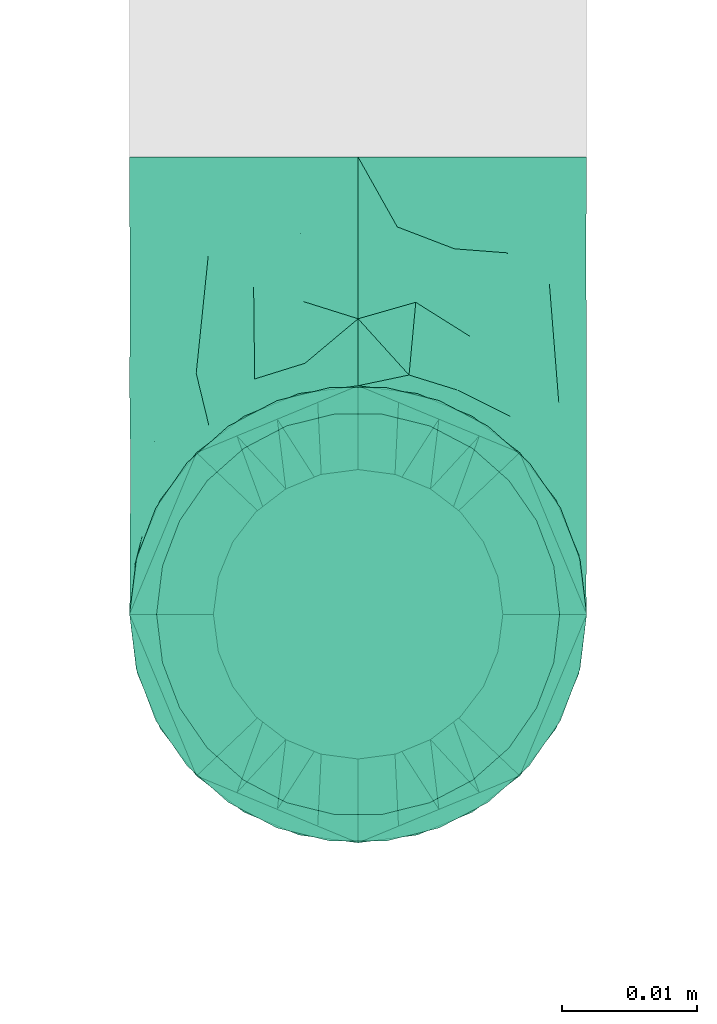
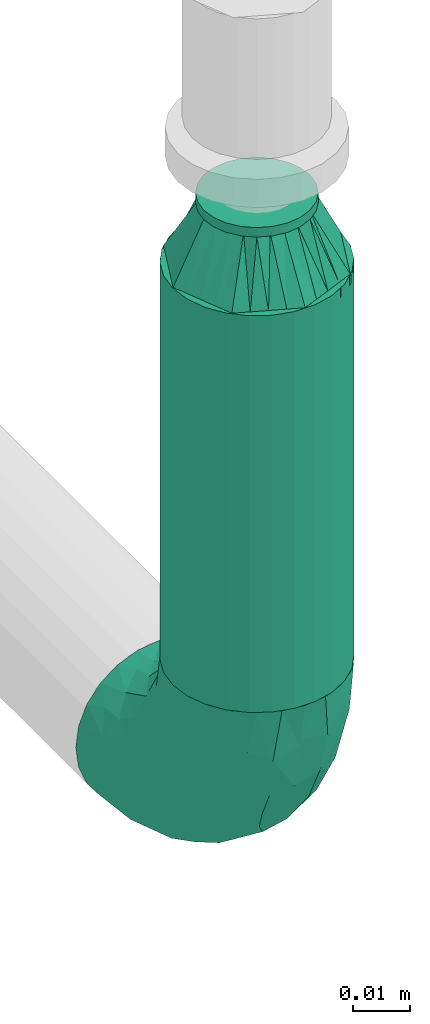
# One storey, part 35 of 94: 2 flow fittings, 1 flow segment.
"""IFC2X3 building model written with IfcOpenShell, lengths in millimetres."""

import ifcopenshell
import ifcopenshell.guid

model = None  # the IFC model being written
_history = None  # IfcOwnerHistory: only IFC2X3 demands one
_inside = {}  # id of a spatial element -> (the spatial element, [elements in it])
_under = {}  # id of a project, library or spatial element -> (it, [spatial elements below it])
_declared = {}  # id of a project -> (the project, [libraries it declares])
_typed = {}  # id of a type object -> (the type object, [elements of that type])
_made_of = {}  # id of a material, layer set ... -> (it, [elements and type objects made of it])


def new_model(schema):
    """Start an empty IFC model of exactly this schema.

    Asked for "IFC4X3", IfcOpenShell would pick the latest addendum, in which some entities
    have other attributes; the version numbers below select the first issue.
    IFC2X3 requires an IfcOwnerHistory on every rooted entity: one is made here for all.
    """
    global model, _history
    if schema == "IFC4X3":
        model = ifcopenshell.file(schema_version=(4, 3, 0, 0))
    else:
        model = ifcopenshell.file(schema=schema)
    _inside.clear()
    _under.clear()
    _declared.clear()
    _typed.clear()
    _made_of.clear()
    _history = None
    if model.schema == "IFC2X3":
        org = make("IfcOrganization", Name="unknown")
        user = make(
            "IfcPersonAndOrganization",
            ThePerson=make("IfcPerson", FamilyName="unknown"),
            TheOrganization=org,
        )
        app = make(
            "IfcApplication",
            ApplicationDeveloper=org,
            Version="unknown",
            ApplicationFullName="unknown",
            ApplicationIdentifier="unknown",
        )
        _history = make(
            "IfcOwnerHistory",
            OwningUser=user,
            OwningApplication=app,
            ChangeAction="ADDED",
            CreationDate=0,
        )
    return model


def make(cls, **values):
    """One entity of the class cls with the attributes given. An attribute that is None is left unset."""
    return model.create_entity(
        cls, **{name: value for name, value in values.items() if value is not None}
    )


def entity(cls, *values):
    """Any entity or typed value of the class cls, its attributes in the order of the schema. None: left unset."""
    e = model.create_entity(cls)
    for i, value in enumerate(values):
        if value is not None:
            e[i] = value
    return e


def rooted(cls, **values):
    """An entity with a GlobalId (a new one), such as an element, a storey or a relation."""
    return make(cls, GlobalId=ifcopenshell.guid.new(), OwnerHistory=_history, **values)


def si_unit(unit_type, name, prefix=None):
    """IfcSIUnit, for example si_unit("LENGTHUNIT", "METRE", prefix="MILLI")."""
    return make("IfcSIUnit", UnitType=unit_type, Prefix=prefix, Name=name)


def converted_unit(unit_type, name, factor, base, dimensions=None, offset=None):
    """IfcConversionBasedUnit, such as the inch: factor (a typed value) times the base unit."""
    return make(
        "IfcConversionBasedUnit"
        if offset is None
        else "IfcConversionBasedUnitWithOffset",
        ConversionOffset=offset,
        Dimensions=None
        if dimensions is None
        else entity("IfcDimensionalExponents", *dimensions),
        UnitType=unit_type,
        Name=name,
        ConversionFactor=make(
            "IfcMeasureWithUnit", ValueComponent=factor, UnitComponent=base
        ),
    )


def derived_unit(unit_type, elements):
    """IfcDerivedUnit: a product of units, each with its exponent."""
    return make(
        "IfcDerivedUnit",
        Elements=[
            make("IfcDerivedUnitElement", Unit=unit, Exponent=power)
            for unit, power in elements
        ],
        UnitType=unit_type,
    )


def assignment(units):
    """IfcUnitAssignment: the units of a project."""
    return None if units is None else make("IfcUnitAssignment", Units=units)


def point(xyz):
    """IfcCartesianPoint."""
    return None if xyz is None else make("IfcCartesianPoint", Coordinates=xyz)


def direction(xyz):
    """IfcDirection."""
    return None if xyz is None else make("IfcDirection", DirectionRatios=xyz)


def frame(location, z_axis=None, x_axis=None):
    """IfcAxis2Placement3D, a coordinate frame: its origin and axes. An axis left out is left unset."""
    return make(
        "IfcAxis2Placement3D",
        Location=point(location),
        Axis=direction(z_axis),
        RefDirection=direction(x_axis),
    )


def frame_2d(location, x_axis=None):
    """IfcAxis2Placement2D, a coordinate frame in the plane: its origin and x axis."""
    return make(
        "IfcAxis2Placement2D", Location=point(location), RefDirection=direction(x_axis)
    )


def origin_with_axes():
    """The frame at (0, 0, 0) with the z axis (0, 0, 1) and the x axis (1, 0, 0) written out."""
    return frame((0.0, 0.0, 0.0), z_axis=(0.0, 0.0, 1.0), x_axis=(1.0, 0.0, 0.0))


def origin_2d_with_axis():
    """The frame at (0, 0) in the plane with the x axis (1, 0) written out."""
    return frame_2d((0.0, 0.0), x_axis=(1.0, 0.0))


def place(relative_to, where):
    """IfcLocalPlacement: puts the frame where relative to a parent placement (None: the world)."""
    return make(
        "IfcLocalPlacement", PlacementRelTo=relative_to, RelativePlacement=where
    )


def context(
    kind, dimensions, precision=None, world=None, true_north=None, identifier=None
):
    """IfcGeometricRepresentationContext, for example the 3D "Model" context."""
    return make(
        "IfcGeometricRepresentationContext",
        ContextIdentifier=identifier,
        ContextType=kind,
        CoordinateSpaceDimension=dimensions,
        Precision=precision,
        WorldCoordinateSystem=world,
        TrueNorth=true_north,
    )


def subcontext(parent, identifier, kind, view, scale=None):
    """IfcGeometricRepresentationSubContext, for example "Body" below "Model"."""
    return make(
        "IfcGeometricRepresentationSubContext",
        ContextIdentifier=identifier,
        ContextType=kind,
        ParentContext=parent,
        TargetScale=scale,
        TargetView=view,
    )


def project(units=None, contexts=None):
    """IfcProject with its units and contexts."""
    return rooted(
        "IfcProject",
        Name="project",
        RepresentationContexts=contexts,
        UnitsInContext=assignment(units),
    )


def spatial(cls, under=None, at=None, **own):
    """A site, building, storey or space (cls), placed at a placement, below another one or the project."""
    s = rooted(cls, ObjectPlacement=at, **own)
    if under is not None:
        _under.setdefault(under.id(), (under, []))[1].append(s)
    return s


def profile(cls, at=None, kind="AREA", **sizes):
    """A parametric profile (cls). Its sizes go by their IFC names, for example OverallWidth=200.0."""
    return make(cls, ProfileType=kind, Position=at, **sizes)


def hollow_circle(**sizes):
    """IfcCircleHollowProfileDef."""
    return profile("IfcCircleHollowProfileDef", **sizes)


def extrude(swept, where, along, depth):
    """IfcExtrudedAreaSolid: the profile swept, set in the frame where, extruded along a direction by depth."""
    return make(
        "IfcExtrudedAreaSolid",
        SweptArea=swept,
        Position=where,
        ExtrudedDirection=direction(along),
        Depth=depth,
    )


def faces_of(points, faces, orient=None, outer=None):
    """IfcFace entities. A face is a list of loops; a loop is a list of indices into points, from 0.

    orient and outer hold one flag for each loop. By default every Orientation is true, the
    first loop of a face is its IfcFaceOuterBound and the others are IfcFaceBound.
    """
    made = []
    for i, loops in enumerate(faces):
        bounds = []
        for j, loop in enumerate(loops):
            is_outer = j == 0 if outer is None else outer[i][j]
            bounds.append(
                make(
                    "IfcFaceOuterBound" if is_outer else "IfcFaceBound",
                    Bound=make("IfcPolyLoop", Polygon=[points[k] for k in loop]),
                    Orientation=True if orient is None else orient[i][j],
                )
            )
        made.append(make("IfcFace", Bounds=bounds))
    return made


def open_shell(faces, orient=None, outer=None):
    """The faces of one IfcOpenShell. surface_model builds it on its shared points."""
    return ("IfcOpenShell", faces, orient, outer)


def surface_model(cls, points, shells):
    """IfcFaceBasedSurfaceModel or IfcShellBasedSurfaceModel (cls): surfaces that need not close."""
    shared = [point(p) for p in points]
    made = [make(c, CfsFaces=faces_of(shared, fs, o, b)) for c, fs, o, b in shells]
    if cls == "IfcFaceBasedSurfaceModel":
        return make(cls, FbsmFaces=made)
    return make(cls, SbsmBoundary=made)


def shape(context_of_items, identifier, shape_type, items):
    """IfcShapeRepresentation: the items that make up one representation, for example the "Body"."""
    return make(
        "IfcShapeRepresentation",
        ContextOfItems=context_of_items,
        RepresentationIdentifier=identifier,
        RepresentationType=shape_type,
        Items=items,
    )


def source(mapping_origin, context_of_items, identifier, shape_type, items):
    """IfcRepresentationMap: a shape defined once, which mapped items show again and again."""
    return make(
        "IfcRepresentationMap",
        MappingOrigin=mapping_origin,
        MappedRepresentation=shape(context_of_items, identifier, shape_type, items),
    )


def transform(
    local_origin,
    x_axis=None,
    y_axis=None,
    z_axis=None,
    scale=None,
    scale2=None,
    scale3=None,
    uniform=True,
):
    """IfcCartesianTransformationOperator3D, or its non-uniform kind. x_axis, y_axis, z_axis: its Axis1, 2, 3."""
    if uniform:
        return make(
            "IfcCartesianTransformationOperator3D",
            Axis1=direction(x_axis),
            Axis2=direction(y_axis),
            LocalOrigin=point(local_origin),
            Scale=scale,
            Axis3=direction(z_axis),
        )
    return make(
        "IfcCartesianTransformationOperator3DnonUniform",
        Axis1=direction(x_axis),
        Axis2=direction(y_axis),
        LocalOrigin=point(local_origin),
        Scale=scale,
        Axis3=direction(z_axis),
        Scale2=scale2,
        Scale3=scale3,
    )


def mapped(mapping_source, mapping_target):
    """IfcMappedItem: shows the shape of a source again, moved by a transform."""
    return make(
        "IfcMappedItem", MappingSource=mapping_source, MappingTarget=mapping_target
    )


def made_of(thing, what):
    """Note that an element or type object is made of a material, layer set ...; save() writes the relation."""
    if what is not None:
        _made_of.setdefault(what.id(), (what, []))[1].append(thing)
    return thing


def type_object(cls, material=None, **own):
    """A type object (cls), such as IfcWallType, which elements share."""
    return made_of(rooted(cls, **own), material)


def element(
    cls,
    number,
    at=None,
    inside=None,
    cuts=None,
    type_object=None,
    material=None,
    context=None,
    identifier="Body",
    shape_type=None,
    held_by="IfcProductDefinitionShape",
    body=None,
    shapes=None,
    **own,
):
    """One element of the class cls, such as IfcWall. Its Tag is "e" and its number.

    at: its placement. inside: the storey or other place that contains it. cuts: it is an
    opening in that element (IfcRelVoidsElement). A single representation is given by context,
    identifier, shape_type and body (its items); several are given by shapes. held_by: the class
    of the entity that holds the representations. save() writes the other relations.
    """
    e = rooted(cls, Tag="e%d" % number, ObjectPlacement=at, **own)
    if body is not None:
        shapes = [shape(context, identifier, shape_type, body)]
    if shapes is not None:
        e.Representation = make(held_by, Representations=shapes)
    if inside is not None:
        _inside.setdefault(inside.id(), (inside, []))[1].append(e)
    if cuts is not None:
        rooted(
            "IfcRelVoidsElement", RelatingBuildingElement=cuts, RelatedOpeningElement=e
        )
    if type_object is not None:
        _typed.setdefault(type_object.id(), (type_object, []))[1].append(e)
    return made_of(e, material)


def aggregate(whole, parts):
    """IfcRelAggregates: a whole, such as a stair, and the parts it consists of."""
    return rooted("IfcRelAggregates", RelatingObject=whole, RelatedObjects=parts)


def save(model, path):
    """Write the relations noted so far, then the file.

    IfcRelAggregates (storeys below a building ...), IfcRelContainedInSpatialStructure (elements
    in a storey), IfcRelDefinesByType, IfcRelAssociatesMaterial and IfcRelDeclares: one each for
    every whole, place, type object, material and project.
    """
    for whole, parts in _under.values():
        aggregate(whole, parts)
    for where, things in _inside.values():
        rooted(
            "IfcRelContainedInSpatialStructure",
            RelatedElements=things,
            RelatingStructure=where,
        )
    for kind, things in _typed.values():
        rooted("IfcRelDefinesByType", RelatedObjects=things, RelatingType=kind)
    for what, things in _made_of.values():
        rooted("IfcRelAssociatesMaterial", RelatedObjects=things, RelatingMaterial=what)
    for by, libraries in _declared.values():
        rooted("IfcRelDeclares", RelatingContext=by, RelatedDefinitions=libraries)
    model.write(path)


model = new_model("IFC2X3")

# Units and contexts
model_context = context("Model", 3, precision=0.01, world=frame((0.0, 4.29681676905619e-09, 0.0)), true_north=direction((4.01073788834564e-13, 1.0)))
plan_context = context("Plan", 3, precision=0.01, world=frame((0.0, 4.29681676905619e-09, 0.0)), true_north=direction((4.01073788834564e-13, 1.0)))
body_context = subcontext(model_context, "Body", "Model", "MODEL_VIEW")
ifc_project = project(units=[converted_unit("PLANEANGLEUNIT", "DEGREE", entity("IfcPositiveLengthMeasure", 0.0174532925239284), si_unit("PLANEANGLEUNIT", "RADIAN"), dimensions=[0, 0, 0, 0, 0, 0, 0]), si_unit("AREAUNIT", "SQUARE_METRE"), si_unit("LENGTHUNIT", "METRE", prefix="MILLI"), si_unit("MASSUNIT", "GRAM", prefix="KILO"), si_unit("POWERUNIT", "WATT"), si_unit("PRESSUREUNIT", "PASCAL"), si_unit("FORCEUNIT", "NEWTON", prefix="KILO"), si_unit("ELECTRICCURRENTUNIT", "AMPERE"), si_unit("THERMODYNAMICTEMPERATUREUNIT", "DEGREE_CELSIUS"), si_unit("TIMEUNIT", "SECOND"), si_unit("VOLUMEUNIT", "CUBIC_METRE"), derived_unit("LINEARVELOCITYUNIT", [(si_unit("LENGTHUNIT", "METRE"), 1), (si_unit("TIMEUNIT", "SECOND"), -1)]), derived_unit("VOLUMETRICFLOWRATEUNIT", [(si_unit("VOLUMEUNIT", "CUBIC_METRE"), 1), (si_unit("TIMEUNIT", "SECOND"), -1)]), derived_unit("THERMALTRANSMITTANCEUNIT", [(si_unit("POWERUNIT", "WATT"), 1), (si_unit("THERMODYNAMICTEMPERATUREUNIT", "KELVIN"), -1), (si_unit("AREAUNIT", "SQUARE_METRE"), -1)])], contexts=[model_context, plan_context])

# Site, building, storey
site_placement = place(None, frame((0.0, -4.29681676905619e-09, 0.0), z_axis=(0.0, 0.0, 1.0), x_axis=(1.0, 0.0, 0.0)))
site = spatial("IfcSite", under=ifc_project, at=site_placement, CompositionType="ELEMENT")
building_placement = place(site_placement, frame((0.0, 4.29681676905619e-09, 0.0), z_axis=(0.0, 0.0, 1.0), x_axis=(1.0, 0.0, 0.0)))
building = spatial("IfcBuilding", under=site, at=building_placement, Name="mc-building", CompositionType="ELEMENT")
storey_placement = place(building_placement, frame((0.0, 0.0, 200300.0), z_axis=(0.0, 0.0, 1.0), x_axis=(1.0, 0.0, 0.0)))
storey = spatial("IfcBuildingStorey", under=building, at=storey_placement, Name="Nivå C", CompositionType="ELEMENT", Elevation=200300.0)

# Flow fittings
pipe_fitting_type_1 = type_object("IfcPipeFittingType", Name="magi_pipe_fe_reducer_centric_short_NOR", PredefinedType="TRANSITION")
shared_shape_1 = source(origin_with_axes(), body_context, "Body", "SurfaceModel", [
    surface_model("IfcShellBasedSurfaceModel", [(14.4, 5.35, -9.26647), (14.4, 0.0, -10.7), (14.4, 2.76936, -10.33541), (14.4, 10.33541, -2.76936), (14.4, 7.56604, -7.56604), (14.4, -10.33541, -2.76936), (14.4, 9.26647, -5.35), (14.4, 0.0, 10.7), (14.4, -5.35, -9.26647), (14.4, -2.76936, -10.33541), (14.4, -7.56604, -7.56604), (14.4, -9.26647, -5.35), (14.4, 10.7, 0.0), (14.4, 10.33541, 2.76936), (14.4, 9.26647, 5.35), (14.4, 7.56604, 7.56604), (14.4, 2.76936, 10.33541), (14.4, 5.35, 9.26647), (14.4, -10.33541, 2.76936), (14.4, -7.56604, 7.56604), (14.4, -9.26647, 5.35), (14.4, -10.7, 0.0), (14.4, -2.76936, 10.33541), (14.4, -5.35, 9.26647), (12.4, 2.76936, 10.33541), (12.4, -10.33541, -2.76936), (12.4, 0.0, 10.7), (12.4, 5.35, 9.26647), (12.4, 7.56604, 7.56604), (12.4, 9.26647, 5.35), (12.4, 10.33541, 2.76936), (12.4, -10.33541, 2.76936), (12.4, -2.76936, 10.33541), (12.4, -7.56604, 7.56604), (12.4, -5.35, 9.26647), (12.4, -9.26647, 5.35), (12.4, -10.7, 0.0), (12.4, 10.33541, -2.76936), (12.4, 5.35, -9.26647), (12.4, 9.26647, -5.35), (12.4, 7.56604, -7.56604), (12.4, 2.76936, -10.33541), (12.4, -9.26647, -5.35), (12.4, -5.35, -9.26647), (12.4, -7.56604, -7.56604), (12.4, 0.0, -10.7), (12.4, -2.76936, -10.33541), (12.4, 10.7, 0.0), (-2.0, 11.9501, 11.9501), (-2.0, 0.0, 16.9), (-2.0, 4.37404, 16.32415), (-2.0, 8.45, 14.63583), (-2.0, 14.63583, 8.45), (-2.0, 16.32415, 4.37404), (-2.0, -16.32415, 4.37404), (-2.0, -8.45, 14.63583), (-2.0, -14.63583, 8.45), (-2.0, -11.9501, 11.9501), (-2.0, -4.37404, 16.32415), (-2.0, -16.32415, -4.37404), (-2.0, -16.9, 0.0), (-2.0, -8.45, -14.63583), (-2.0, 16.32415, -4.37404), (-2.0, 11.9501, -11.9501), (-2.0, 14.63583, -8.45), (-2.0, 8.45, -14.63583), (-2.0, 4.37404, -16.32415), (-2.0, 0.0, -16.9), (-2.0, -11.9501, -11.9501), (-2.0, -14.63583, -8.45), (-2.0, -4.37404, -16.32415), (-2.0, 16.9, 0.0), (0.0, 4.37404, -16.32415), (0.0, 8.45, -14.63583), (0.0, 11.9501, -11.9501), (0.0, 0.0, -16.9), (0.0, 16.32415, -4.37404), (0.0, 16.32415, 4.37404), (0.0, 14.63583, -8.45), (0.0, -8.45, -14.63583), (0.0, -4.37404, -16.32415), (0.0, -11.9501, -11.9501), (0.0, -16.32415, -4.37404), (0.0, -14.63583, -8.45), (0.0, -16.32415, 4.37404), (0.0, 16.9, 0.0), (0.0, 14.63583, 8.45), (0.0, 11.9501, 11.9501), (0.0, 4.37404, 16.32415), (0.0, 8.45, 14.63583), (0.0, 0.0, 16.9), (0.0, -14.63583, 8.45), (0.0, -16.9, 0.0), (0.0, -8.45, 14.63583), (0.0, -11.9501, 11.9501), (0.0, -4.37404, 16.32415), (12.4, 9.3625, -2.31662), (0.0, 14.42505, -5.97505), (0.0, 15.66253, -2.98753), (12.4, -6.6875, -6.94985), (0.0, -13.18758, -8.96258), (0.0, 2.98753, -15.66253), (12.4, 0.0, -9.26647), (12.4, 6.6875, -6.94985), (0.0, 8.96258, -13.18758), (12.4, -9.3625, -2.31662), (0.0, -15.66253, -2.98753), (0.0, -14.42505, -5.97505), (0.0, 5.97505, -14.42505), (0.0, -2.98753, -15.66253), (0.0, -8.96258, -13.18758), (0.0, 13.18758, -8.96258), (12.4, 8.025, -4.63324), (12.4, -2.675, -9.26647), (12.4, 2.675, -9.26647), (0.0, -5.97505, -14.42505), (12.4, -8.025, -4.63324), (12.4, -9.3625, 2.31662), (0.0, -14.42505, 5.97505), (0.0, -15.66253, 2.98753), (12.4, 6.6875, 6.94985), (0.0, 13.18758, 8.96258), (0.0, -2.98753, 15.66253), (12.4, 0.0, 9.26647), (12.4, -6.6875, 6.94985), (0.0, -8.96258, 13.18758), (12.4, 9.3625, 2.31662), (0.0, 15.66253, 2.98753), (0.0, 14.42505, 5.97505), (0.0, -5.97505, 14.42505), (0.0, 2.98753, 15.66253), (0.0, 8.96258, 13.18758), (0.0, -13.18758, 8.96258), (12.4, -8.025, 4.63324), (12.4, 2.675, 9.26647), (12.4, -2.675, 9.26647), (0.0, 5.97505, 14.42505), (12.4, 8.025, 4.63324)], [open_shell([[[0, 1, 2]], [[3, 0, 4]], [[5, 0, 3]], [[3, 4, 6]], [[7, 5, 3]], [[1, 8, 9]], [[1, 0, 8]], [[10, 5, 11]], [[5, 10, 8]], [[0, 5, 8]], [[3, 12, 13]], [[13, 14, 15]], [[13, 15, 16]], [[7, 3, 16]], [[16, 15, 17]], [[7, 18, 5]], [[18, 19, 20]], [[21, 5, 18]], [[19, 22, 23]], [[22, 19, 18]], [[7, 22, 18]], [[13, 16, 3]], [[24, 25, 26]], [[27, 25, 24]], [[28, 29, 30]], [[28, 25, 27]], [[31, 26, 25]], [[32, 33, 34]], [[33, 32, 31]], [[33, 31, 35]], [[32, 26, 31]], [[31, 25, 36]], [[30, 37, 28]], [[25, 28, 37]], [[38, 37, 39]], [[37, 38, 25]], [[38, 39, 40]], [[41, 25, 38]], [[42, 43, 44]], [[43, 42, 25]], [[43, 45, 46]], [[43, 25, 41]], [[41, 45, 43]], [[37, 30, 47]], [[25, 5, 36]], [[42, 11, 25]], [[8, 44, 43]], [[42, 44, 10]], [[9, 43, 46]], [[25, 11, 5]], [[5, 21, 36]], [[9, 8, 43]], [[10, 44, 8]], [[10, 11, 42]], [[1, 9, 46]], [[46, 45, 1]], [[41, 2, 45]], [[38, 0, 41]], [[6, 40, 39]], [[38, 40, 4]], [[3, 39, 37]], [[38, 4, 0]], [[0, 2, 41]], [[12, 3, 37]], [[6, 39, 3]], [[6, 4, 40]], [[47, 12, 37]], [[45, 2, 1]], [[30, 13, 47]], [[29, 14, 30]], [[17, 28, 27]], [[29, 28, 15]], [[16, 27, 24]], [[30, 14, 13]], [[13, 12, 47]], [[16, 17, 27]], [[15, 28, 17]], [[15, 14, 29]], [[7, 16, 24]], [[24, 26, 7]], [[32, 22, 26]], [[34, 23, 32]], [[20, 33, 35]], [[34, 33, 19]], [[18, 35, 31]], [[34, 19, 23]], [[23, 22, 32]], [[21, 18, 31]], [[20, 35, 18]], [[20, 19, 33]], [[36, 21, 31]], [[26, 22, 7]], [[48, 49, 50]], [[48, 50, 51]], [[48, 52, 53]], [[48, 53, 49]], [[49, 53, 54]], [[55, 56, 57]], [[55, 58, 49]], [[56, 55, 49]], [[49, 54, 56]], [[54, 59, 60]], [[54, 53, 61]], [[53, 62, 63]], [[63, 62, 64]], [[63, 65, 66]], [[61, 53, 63]], [[67, 63, 66]], [[59, 68, 69]], [[68, 59, 61]], [[61, 67, 70]], [[59, 54, 61]], [[63, 67, 61]], [[53, 71, 62]], [[72, 73, 74]], [[75, 72, 74]], [[74, 76, 77]], [[76, 74, 78]], [[74, 77, 79]], [[75, 79, 80]], [[75, 74, 79]], [[81, 82, 83]], [[82, 81, 79]], [[79, 84, 82]], [[77, 76, 85]], [[77, 86, 87]], [[77, 87, 88]], [[88, 84, 79]], [[88, 87, 89]], [[84, 88, 90]], [[90, 91, 84]], [[92, 82, 84]], [[91, 93, 94]], [[91, 90, 93]], [[93, 90, 95]], [[79, 77, 88]], [[59, 82, 60]], [[69, 83, 59]], [[79, 68, 61]], [[69, 68, 81]], [[80, 61, 70]], [[59, 83, 82]], [[82, 92, 60]], [[80, 79, 61]], [[81, 68, 79]], [[81, 83, 69]], [[75, 80, 70]], [[70, 67, 75]], [[66, 72, 67]], [[65, 73, 66]], [[78, 63, 64]], [[65, 63, 74]], [[76, 64, 62]], [[65, 74, 73]], [[73, 72, 66]], [[85, 76, 62]], [[78, 64, 76]], [[78, 74, 63]], [[71, 85, 62]], [[67, 72, 75]], [[53, 77, 71]], [[52, 86, 53]], [[89, 48, 51]], [[52, 48, 87]], [[88, 51, 50]], [[53, 86, 77]], [[77, 85, 71]], [[88, 89, 51]], [[87, 48, 89]], [[87, 86, 52]], [[90, 88, 50]], [[50, 49, 90]], [[58, 95, 49]], [[55, 93, 58]], [[91, 57, 56]], [[55, 57, 94]], [[84, 56, 54]], [[55, 94, 93]], [[93, 95, 58]], [[92, 84, 54]], [[91, 56, 84]], [[91, 94, 57]], [[60, 92, 54]], [[49, 95, 90]], [[27, 34, 47]], [[47, 34, 43]], [[43, 38, 47]], [[43, 34, 36]], [[90, 87, 94]], [[92, 94, 87]], [[87, 74, 92]], [[75, 92, 74]], [[81, 92, 75]], [[74, 87, 85]], [[96, 97, 98]], [[81, 99, 100]], [[101, 102, 75]], [[98, 85, 47]], [[74, 103, 104]], [[104, 103, 38]], [[105, 106, 107]], [[38, 108, 104]], [[102, 109, 75]], [[110, 99, 81]], [[47, 96, 98]], [[103, 111, 112]], [[109, 102, 113]], [[36, 92, 106]], [[102, 101, 114]], [[110, 115, 43]], [[96, 112, 97]], [[107, 116, 105]], [[36, 106, 105]], [[113, 115, 109]], [[43, 115, 113]], [[116, 107, 100]], [[108, 38, 114]], [[111, 103, 74]], [[111, 97, 112]], [[99, 110, 43]], [[116, 100, 99]], [[101, 108, 114]], [[117, 118, 119]], [[87, 120, 121]], [[122, 123, 90]], [[119, 92, 36]], [[94, 124, 125]], [[125, 124, 34]], [[126, 127, 128]], [[34, 129, 125]], [[123, 130, 90]], [[131, 120, 87]], [[36, 117, 119]], [[124, 132, 133]], [[130, 123, 134]], [[47, 85, 127]], [[123, 122, 135]], [[131, 136, 27]], [[117, 133, 118]], [[128, 137, 126]], [[47, 127, 126]], [[134, 136, 130]], [[27, 136, 134]], [[137, 128, 121]], [[129, 34, 135]], [[132, 124, 94]], [[132, 118, 133]], [[120, 131, 27]], [[137, 121, 120]], [[122, 129, 135]]])]),
])
flow_fitting_1_placement = place(storey_placement, frame((514835.88771, 409625.75497, 2968.10921), z_axis=(0.0, -1.0, 0.0), x_axis=(0.0, 0.0, 1.0)))
element("IfcFlowFitting", 1, at=flow_fitting_1_placement, inside=storey, type_object=pipe_fitting_type_1, Name="magi_pipe_fe_reducer_centric_short_NOR", context=body_context, shape_type="MappedRepresentation", body=[
    mapped(shared_shape_1, transform((0.0, 0.0, 0.0), scale=1.0)),
])
pipe_fitting_type_2 = type_object("IfcPipeFittingType", Name="magi_pipe_fe_elbow_short_001", PredefinedType="BEND")
shared_shape_2 = source(origin_with_axes(), body_context, "Body", "SurfaceModel", [
    surface_model("IfcShellBasedSurfaceModel", [(-33.8, 8.45, -14.63583), (-33.8, 4.37404, -16.32415), (-33.8, 11.9501, -11.9501), (-33.8, -11.9501, -11.9501), (-33.8, -14.63583, -8.45), (-33.8, -8.45, -14.63583), (-33.8, 0.0, -16.9), (-33.8, -4.37404, -16.32415), (-33.8, -4.37404, 16.32415), (-33.8, 0.0, 16.9), (-33.8, -8.45, 14.63583), (-33.8, 16.32415, -4.37404), (-33.8, 14.63583, -8.45), (-33.8, -16.32415, -4.37404), (-33.8, -16.9, 0.0), (-33.8, -16.32415, 4.37404), (-33.8, 11.9501, 11.9501), (-33.8, 14.63583, 8.45), (-33.8, 16.32415, 4.37404), (-33.8, 4.37404, 16.32415), (-33.8, 8.45, 14.63583), (-33.8, -14.63583, 8.45), (-33.8, -11.9501, 11.9501), (-33.8, 16.9, 0.0), (-11.9501, 33.8, -11.9501), (0.0, 33.8, -16.9), (-4.37404, 33.8, -16.32415), (-8.45, 33.8, -14.63583), (-14.63583, 33.8, -8.45), (-16.32415, 33.8, -4.37404), (14.63583, 33.8, -8.45), (8.45, 33.8, 14.63583), (16.32415, 33.8, -4.37404), (8.45, 33.8, -14.63583), (11.9501, 33.8, -11.9501), (4.37404, 33.8, -16.32415), (16.32415, 33.8, 4.37404), (16.9, 33.8, 0.0), (-11.9501, 33.8, 11.9501), (-16.32415, 33.8, 4.37404), (-14.63583, 33.8, 8.45), (-8.45, 33.8, 14.63583), (-4.37404, 33.8, 16.32415), (11.9501, 33.8, 11.9501), (14.63583, 33.8, 8.45), (0.0, 33.8, 16.9), (4.37404, 33.8, 16.32415), (-16.9, 33.8, 0.0), (-24.79389, -13.12945, 9.48721), (-22.19287, -9.75018, 12.59315), (-24.09897, -14.97035, 0.0), (-14.93934, -10.76256, 8.5297), (-22.46095, -14.75051, 5.27077), (14.75051, 22.46094, 5.27077), (11.9251, 13.23888, 4.33236), (13.04069, 14.39795, 0.0), (7.71387, 13.68847, 11.55891), (9.75018, 22.19287, 12.59315), (4.10169, 13.0571, 14.04018), (-24.84007, -6.39063, 15.2048), (-25.81779, -2.23879, 16.61097), (-23.66549, 2.59054, 16.87119), (-26.50418, 14.06512, 11.08152), (-24.21253, 17.66365, 7.72657), (-29.58514, 15.86957, 7.00283), (-6.17382, -7.5455, 0.0), (-13.23888, -11.9251, 4.33236), (-14.39795, -13.04069, 0.0), (-17.81434, 18.87373, 11.97104), (-6.30846, 29.15138, 15.82987), (-2.31622, 25.28002, 16.85849), (-29.23923, 10.23435, 13.77053), (-1.45439, -2.85688, 7.61475), (-0.28326, 0.34872, 10.09509), (-5.74484, -4.04709, 10.4122), (-4.41137, 11.31918, 16.59407), (-8.39727, 3.10034, 15.7812), (-1.72649, 9.1306, 15.53089), (-17.39909, 24.75344, 7.64977), (-26.19233, 20.0512, 0.0), (-28.14518, 17.29657, 4.25857), (-26.05147, 6.6281, 15.96447), (-5.87354, 16.61944, 16.86968), (-12.51807, 12.51807, 16.48937), (-10.06312, 7.38516, 16.81295), (-3.01882, 3.01882, 13.81718), (-13.0571, -4.10169, 14.04018), (-16.82553, -0.15166, 16.38038), (10.76256, 14.93934, 8.5297), (13.12945, 24.79389, 9.48721), (6.39063, 24.84007, 15.2048), (2.23879, 25.81779, 16.61097), (-13.68847, -7.71387, 11.55891), (14.97035, 24.09897, 0.0), (-7.30894, 22.89991, 16.09489), (-10.67958, 26.17414, 14.008), (-12.78295, 18.26924, 15.06066), (-13.88562, 22.45231, 12.93244), (-18.04944, 15.16501, 14.04434), (-23.11658, 20.08178, 4.02986), (-21.84989, 21.84989, 0.0), (-18.55817, 25.48277, 3.93065), (-13.95142, 26.94732, 11.03289), (-18.57098, 7.23906, 16.59756), (-16.58335, 4.14122, 16.89279), (-17.96666, 11.46709, 15.63151), (-9.84453, 17.54304, 16.18938), (0.15166, 16.82553, 16.38038), (-23.27207, 11.47201, 14.23154), (3.84842, 5.86994, 10.70473), (-8.0212, -7.54413, 7.93275), (1.00345, -2.19508, 4.57414), (5.13203, 3.01004, 5.90201), (5.24161, 1.7543, 2.53265), (8.70457, 7.04947, 3.99182), (-20.0512, 26.19233, 0.0), (8.4852, 8.76699, 7.09296), (-4.55488, -6.72064, 4.90681), (2.05031, -2.05031, 0.0), (7.5455, 6.17382, 0.0), (-26.75399, 2.1369, -16.845), (-14.61995, 24.73803, -11.27736), (-28.45274, -13.45335, -9.81895), (-26.00469, 6.63555, -15.96645), (-23.06726, 20.04573, -4.26202), (-13.80647, -4.26506, -14.17873), (-14.67501, -0.21081, -16.07388), (-6.7902, -0.2828, -13.8478), (-24.53586, 11.08096, -14.13417), (-26.72048, 14.00837, -11.05776), (10.0967, 24.44989, -12.75976), (5.83237, 21.40218, -15.03047), (6.66249, 28.54238, -15.38093), (-20.38182, 15.48705, -12.74596), (12.53268, 21.23441, -9.15363), (12.54494, 15.67504, -5.54878), (9.7522, 12.89279, -8.66343), (-15.65186, 19.64213, -13.01327), (-12.03528, 20.66498, -14.67665), (-15.61907, 15.61906, -14.83879), (-25.56551, -15.26206, 0.0), (-24.65452, -15.12934, -5.50955), (13.45335, 28.45274, -9.81895), (15.12934, 24.65452, -5.50955), (-7.35442, -8.31014, -5.65563), (-15.67504, -12.54494, -5.54878), (-24.44989, -10.0967, -12.75976), (0.16522, 0.41303, -9.71728), (-5.70658, -5.33066, -8.89288), (-5.13869, -2.37198, -11.53565), (-21.23441, -12.53268, -9.15363), (0.71146, 7.93863, -14.09382), (0.21081, 14.67501, -16.07388), (3.49291, 14.42772, -14.76381), (-24.89911, -2.13088, -16.591), (-28.54238, -6.66249, -15.38093), (-18.44386, -7.71663, -13.26957), (2.13088, 24.89911, -16.591), (-28.64342, 17.44413, -2.89318), (1.70017, -1.28722, -5.09504), (-16.57067, 26.81947, -7.36596), (-17.69055, 27.4263, -3.76405), (-12.89279, -9.7522, -8.66343), (-5.96611, 5.96611, -15.95814), (-20.53709, 20.09345, -8.28985), (-2.1369, 26.75399, -16.845), (-6.89872, 24.58781, -16.02578), (-10.60739, 26.53157, -13.98044), (-21.40218, -5.83237, -15.03047), (2.93192, 5.89627, -11.55917), (6.89393, 12.61842, -11.82233), (5.58056, 5.95325, -8.79455), (-3.99512, 18.61798, -16.89635), (8.31014, 7.35442, -5.65563), (-9.1383, 9.86148, -16.89041), (-9.99983, 16.02119, -16.39699), (-16.68576, 9.78031, -16.34199), (-27.01915, 16.61158, -7.12979), (15.26206, 25.56551, 0.0), (-18.61798, 3.99512, -16.89635), (-19.37495, 27.82495, 0.0), (-12.61842, -6.89393, -11.82233), (-18.84705, 19.14018, -10.96545)], [open_shell([[[0, 1, 2]], [[3, 4, 5]], [[6, 7, 5]], [[8, 9, 10]], [[1, 6, 2]], [[11, 12, 2]], [[4, 2, 6]], [[2, 13, 10]], [[5, 4, 6]], [[2, 4, 13]], [[14, 15, 13]], [[11, 2, 16]], [[11, 17, 18]], [[11, 16, 17]], [[19, 20, 16]], [[16, 2, 10]], [[19, 16, 10]], [[21, 22, 15]], [[22, 13, 15]], [[22, 10, 13]], [[10, 9, 19]], [[11, 18, 23]], [[24, 25, 26]], [[24, 26, 27]], [[24, 28, 29]], [[25, 24, 30]], [[31, 32, 24]], [[33, 30, 34]], [[33, 35, 25]], [[25, 30, 33]], [[32, 30, 24]], [[32, 36, 37]], [[38, 24, 29]], [[39, 40, 29]], [[40, 38, 29]], [[38, 41, 42]], [[38, 31, 24]], [[31, 38, 42]], [[36, 43, 44]], [[36, 32, 43]], [[31, 45, 46]], [[32, 31, 43]], [[42, 45, 31]], [[39, 29, 47]], [[22, 48, 49]], [[15, 14, 50]], [[51, 48, 52]], [[53, 54, 55]], [[48, 22, 21]], [[15, 52, 21]], [[56, 57, 58]], [[49, 10, 22]], [[49, 59, 10]], [[9, 60, 61]], [[62, 63, 64]], [[65, 66, 67]], [[57, 43, 31]], [[62, 68, 63]], [[42, 69, 70]], [[20, 71, 16]], [[8, 60, 9]], [[72, 73, 74]], [[75, 76, 77]], [[16, 62, 17]], [[40, 39, 78]], [[79, 23, 80]], [[64, 18, 17]], [[9, 61, 19]], [[19, 81, 20]], [[82, 83, 84]], [[74, 85, 86]], [[59, 86, 87]], [[88, 89, 57]], [[90, 31, 46]], [[44, 53, 36]], [[46, 45, 91]], [[54, 53, 88]], [[44, 89, 53]], [[92, 86, 49]], [[89, 44, 43]], [[10, 59, 8]], [[53, 55, 93]], [[93, 36, 53]], [[66, 52, 67]], [[94, 82, 70]], [[95, 96, 94]], [[97, 98, 96]], [[79, 99, 100]], [[41, 38, 95]], [[101, 100, 99]], [[68, 78, 63]], [[42, 41, 69]], [[23, 18, 80]], [[95, 94, 69]], [[78, 101, 99]], [[38, 102, 95]], [[70, 45, 42]], [[97, 95, 102]], [[15, 50, 52]], [[90, 57, 31]], [[57, 90, 58]], [[81, 19, 61]], [[103, 104, 84]], [[105, 81, 103]], [[38, 40, 102]], [[106, 96, 83]], [[94, 106, 82]], [[91, 70, 107]], [[71, 62, 16]], [[62, 108, 98]], [[86, 59, 49]], [[67, 52, 50]], [[60, 59, 87]], [[92, 49, 51]], [[86, 85, 76]], [[91, 90, 46]], [[37, 36, 93]], [[107, 77, 58]], [[107, 58, 90]], [[58, 85, 109]], [[110, 74, 92]], [[72, 74, 110]], [[66, 51, 52]], [[72, 111, 112]], [[113, 114, 112]], [[56, 88, 57]], [[52, 48, 21]], [[49, 48, 51]], [[57, 89, 43]], [[53, 89, 88]], [[103, 81, 61]], [[71, 81, 108]], [[18, 64, 80]], [[63, 78, 99]], [[47, 115, 101]], [[101, 115, 100]], [[40, 78, 102]], [[68, 102, 78]], [[97, 96, 95]], [[105, 98, 108]], [[103, 84, 83]], [[107, 70, 82]], [[76, 84, 87]], [[82, 84, 75]], [[70, 91, 45]], [[90, 91, 107]], [[59, 60, 8]], [[61, 60, 87]], [[73, 85, 74]], [[109, 112, 116]], [[103, 61, 104]], [[105, 103, 83]], [[96, 105, 83]], [[81, 105, 108]], [[96, 98, 105]], [[62, 98, 68]], [[61, 87, 104]], [[87, 84, 104]], [[86, 76, 87]], [[77, 76, 85]], [[58, 77, 85]], [[75, 77, 107]], [[82, 75, 107]], [[76, 75, 84]], [[81, 71, 20]], [[62, 71, 108]], [[95, 69, 41]], [[70, 69, 94]], [[62, 64, 17]], [[80, 63, 99]], [[63, 80, 64]], [[80, 99, 79]], [[66, 65, 117]], [[110, 66, 117]], [[112, 114, 116]], [[118, 117, 65]], [[110, 92, 51]], [[112, 111, 113]], [[119, 55, 54]], [[74, 86, 92]], [[58, 109, 56]], [[116, 56, 109]], [[66, 110, 51]], [[72, 110, 117]], [[111, 72, 117]], [[73, 112, 109]], [[117, 118, 111]], [[113, 111, 118]], [[118, 119, 113]], [[114, 119, 54]], [[119, 114, 113]], [[116, 54, 88]], [[54, 116, 114]], [[116, 88, 56]], [[112, 73, 72]], [[85, 73, 109]], [[78, 39, 101]], [[47, 101, 39]], [[102, 68, 97]], [[97, 68, 98]], [[82, 106, 83]], [[94, 96, 106]], [[1, 120, 6]], [[28, 24, 121]], [[3, 122, 4]], [[0, 123, 1]], [[100, 124, 79]], [[125, 126, 127]], [[128, 2, 129]], [[130, 131, 132]], [[128, 129, 133]], [[134, 135, 136]], [[137, 138, 139]], [[128, 0, 2]], [[67, 140, 141]], [[134, 142, 143]], [[141, 13, 4]], [[144, 65, 145]], [[146, 3, 5]], [[147, 148, 149]], [[145, 141, 150]], [[151, 152, 153]], [[154, 7, 6]], [[5, 155, 146]], [[150, 146, 156]], [[155, 5, 7]], [[143, 135, 134]], [[35, 157, 25]], [[23, 79, 158]], [[148, 159, 144]], [[160, 161, 29]], [[145, 162, 144]], [[163, 152, 151]], [[29, 28, 160]], [[121, 164, 160]], [[33, 34, 130]], [[25, 165, 26]], [[26, 165, 166]], [[142, 34, 30]], [[24, 27, 167]], [[124, 161, 164]], [[157, 35, 132]], [[155, 154, 168]], [[123, 0, 128]], [[169, 170, 171]], [[172, 157, 152]], [[26, 166, 27]], [[132, 35, 33]], [[142, 130, 34]], [[168, 154, 126]], [[136, 135, 173]], [[133, 137, 139]], [[2, 12, 129]], [[170, 131, 130]], [[30, 32, 143]], [[172, 174, 175]], [[176, 123, 128]], [[158, 177, 11]], [[135, 55, 119]], [[167, 27, 166]], [[175, 166, 172]], [[137, 167, 138]], [[122, 141, 4]], [[140, 14, 13]], [[32, 37, 178]], [[170, 130, 134]], [[152, 157, 131]], [[165, 157, 172]], [[153, 170, 151]], [[152, 163, 174]], [[168, 125, 156]], [[122, 146, 150]], [[120, 154, 6]], [[179, 174, 126]], [[179, 126, 154]], [[126, 163, 127]], [[162, 145, 150]], [[140, 13, 141]], [[32, 178, 143]], [[55, 143, 178]], [[177, 129, 12]], [[128, 133, 139]], [[176, 128, 139]], [[120, 123, 179]], [[121, 160, 28]], [[161, 100, 180]], [[166, 175, 138]], [[121, 24, 167]], [[161, 47, 29]], [[79, 124, 158]], [[124, 164, 177]], [[161, 124, 100]], [[136, 171, 170]], [[127, 163, 151]], [[147, 171, 159]], [[148, 144, 162]], [[127, 151, 169]], [[127, 181, 125]], [[129, 177, 164]], [[12, 11, 177]], [[159, 65, 144]], [[67, 141, 145]], [[143, 55, 135]], [[135, 119, 173]], [[123, 120, 1]], [[154, 120, 179]], [[157, 165, 25]], [[166, 165, 172]], [[172, 152, 174]], [[176, 139, 175]], [[126, 174, 163]], [[176, 174, 179]], [[174, 176, 175]], [[123, 176, 179]], [[150, 181, 162]], [[127, 149, 181]], [[181, 148, 162]], [[159, 148, 147]], [[171, 136, 173]], [[170, 134, 136]], [[159, 171, 173]], [[171, 147, 169]], [[169, 147, 149]], [[151, 170, 169]], [[164, 182, 129]], [[182, 121, 137]], [[181, 149, 148]], [[169, 149, 127]], [[182, 137, 133]], [[167, 137, 121]], [[166, 138, 167]], [[175, 139, 138]], [[129, 182, 133]], [[121, 182, 164]], [[161, 160, 164]], [[47, 161, 180]], [[177, 158, 124]], [[23, 158, 11]], [[130, 132, 33]], [[157, 132, 131]], [[143, 142, 30]], [[130, 142, 134]], [[154, 155, 7]], [[146, 155, 168]], [[146, 122, 3]], [[141, 122, 150]], [[152, 131, 153]], [[159, 119, 118]], [[67, 145, 65]], [[170, 153, 131]], [[119, 159, 173]], [[159, 118, 65]], [[156, 125, 181]], [[126, 125, 168]], [[150, 156, 181]], [[168, 156, 146]]])]),
])
flow_fitting_2_placement = place(storey_placement, frame((514835.88771, 409625.75497, 2850.0), z_axis=(-1.0, 0.0, 0.0), x_axis=(0.0, -1.0, 0.0)))
element("IfcFlowFitting", 2, at=flow_fitting_2_placement, inside=storey, type_object=pipe_fitting_type_2, Name="magi_pipe_fe_elbow_short_001", context=body_context, shape_type="MappedRepresentation", body=[
    mapped(shared_shape_2, transform((0.0, 0.0, 0.0), scale=1.0)),
])

# Flow segment
pipe_segment_type = type_object("IfcPipeSegmentType", Name="Stålrør normaltykke", PredefinedType="RIGIDSEGMENT")
shared_shape_3 = source(origin_with_axes(), body_context, "Body", "SweptSolid", [
    extrude(hollow_circle(Radius=16.9, WallThickness=2.0, at=origin_2d_with_axis()), frame((0.0, 0.0, 0.0), z_axis=(1.0, 0.0, 0.0), x_axis=(0.0, 1.0, 0.0)), (0.0, 0.0, 1.0), 84.3),
])
flow_segment_placement = place(storey_placement, frame((514835.88771, 409625.75497, 2883.79999999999), z_axis=(0.0, -1.0, 0.0), x_axis=(0.0, 0.0, 1.0)))
element("IfcFlowSegment", 3, at=flow_segment_placement, inside=storey, type_object=pipe_segment_type, Name="Stålrør normaltykke", context=body_context, shape_type="MappedRepresentation", body=[
    mapped(shared_shape_3, transform((0.0, 0.0, 0.0), scale=1.0)),
])

save(model, "model.ifc")
